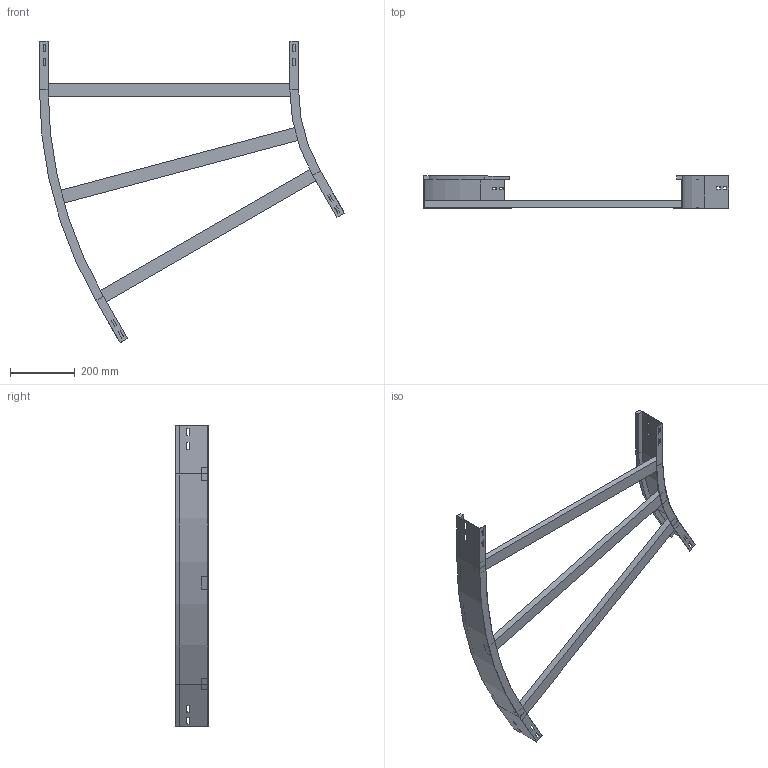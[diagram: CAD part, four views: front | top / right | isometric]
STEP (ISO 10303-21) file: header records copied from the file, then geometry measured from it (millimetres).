
FILE_DESCRIPTION (( 'STEP AP214' ), '1' );
FILE_NAME ('12B5D800.step', '2025-02-21T15:06:54', ( '' ), ( '' ), 'SwSTEP 2.0', 'SolidWorks 2023', '' );
FILE_SCHEMA (( 'AUTOMOTIVE_DESIGN' ));
Length unit declared in the file: millimetre
Products named in the file (4): A2_LONGH.ESTERNO 30°_H100_R500+800; TRAVERSINO_800; 12B5D800; A2_LONGH.INTERNO 30°_H100_R500
Assembly tree (5 placements, depth 2):
  12B5D800
    A2_LONGH.INTERNO 30°_H100_R500
    A2_LONGH.ESTERNO 30°_H100_R500+800
    TRAVERSINO_800  x3
Bounding box: 941.99 x 100 x 929.9 mm (x, y, z)
Volume: 2611127.2 mm3; surface area: 733652.6 mm2
Topology: 5 solids, 5 shells, 134 faces, 340 edges, 216 vertices
Faces by surface type: plane 126, cylinder 8
Entity records: 3821 total; most frequent: CARTESIAN_POINT 646, ORIENTED_EDGE 632, DIRECTION 592, EDGE_CURVE 316, LINE 300, VECTOR 300, VERTEX_POINT 200, EDGE_LOOP 154
